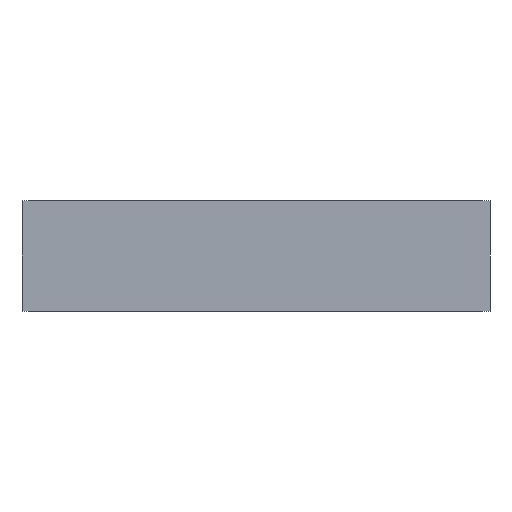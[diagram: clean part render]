
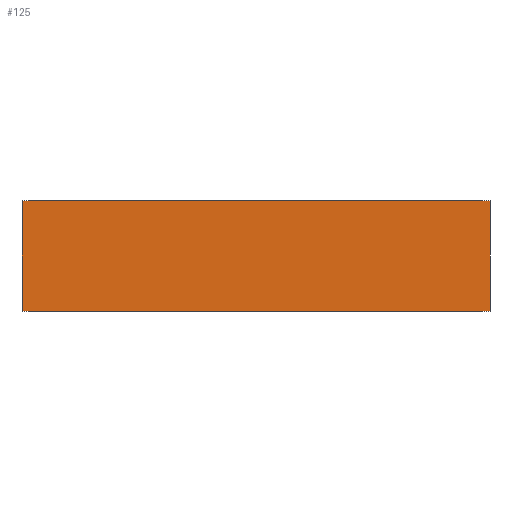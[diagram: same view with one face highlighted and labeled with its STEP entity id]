
A CAD part, front view. The second image highlights one B-rep face of the part: STEP entity #125.
In plain terms, the highlighted planar face has unit normal (0, -1, 0).
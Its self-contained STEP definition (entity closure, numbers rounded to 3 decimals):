
#4 = EDGE_CURVE ( 'NONE', #173, #172, #773, .T. ) ;
#36 = EDGE_CURVE ( 'NONE', #216, #173, #817, .T. ) ;
#59 = AXIS2_PLACEMENT_3D ( 'NONE', #382, #520, #519 ) ;
#83 = EDGE_CURVE ( 'NONE', #219, #172, #878, .T. ) ;
#101 = EDGE_CURVE ( 'NONE', #216, #219, #898, .T. ) ;
#125 = ADVANCED_FACE ( 'NONE', ( #934 ), #388, .F. ) ;
#172 = VERTEX_POINT ( 'NONE', #417 ) ;
#173 = VERTEX_POINT ( 'NONE', #416 ) ;
#190 = DIRECTION ( 'NONE',  ( 0., 0., -1. ) ) ;
#216 = VERTEX_POINT ( 'NONE', #392 ) ;
#219 = VERTEX_POINT ( 'NONE', #394 ) ;
#231 = CARTESIAN_POINT ( 'NONE',  ( 254., 0., 120. ) ) ;
#248 = DIRECTION ( 'NONE',  ( 0., 0., -1. ) ) ;
#249 = CARTESIAN_POINT ( 'NONE',  ( -254., 0., 120. ) ) ;
#268 = DIRECTION ( 'NONE',  ( 1., 0., 0. ) ) ;
#269 = CARTESIAN_POINT ( 'NONE',  ( -254., 0., 0. ) ) ;
#332 = DIRECTION ( 'NONE',  ( 1., 0., 0. ) ) ;
#333 = CARTESIAN_POINT ( 'NONE',  ( -254., 0., 120. ) ) ;
#382 = CARTESIAN_POINT ( 'NONE',  ( -254., 0., 120. ) ) ;
#388 = PLANE ( 'NONE',  #59 ) ;
#392 = CARTESIAN_POINT ( 'NONE',  ( -254., 0., 120. ) ) ;
#394 = CARTESIAN_POINT ( 'NONE',  ( -254., 0., 0. ) ) ;
#416 = CARTESIAN_POINT ( 'NONE',  ( 254., 0., 120. ) ) ;
#417 = CARTESIAN_POINT ( 'NONE',  ( 254., 0., 0. ) ) ;
#519 = DIRECTION ( 'NONE',  ( -1., 0., 0. ) ) ;
#520 = DIRECTION ( 'NONE',  ( 0., 1., 0. ) ) ;
#620 = ORIENTED_EDGE ( 'NONE', *, *, #83, .T. ) ;
#621 = ORIENTED_EDGE ( 'NONE', *, *, #36, .F. ) ;
#622 = ORIENTED_EDGE ( 'NONE', *, *, #101, .T. ) ;
#677 = ORIENTED_EDGE ( 'NONE', *, *, #4, .F. ) ;
#742 = EDGE_LOOP ( 'NONE', ( #620, #677, #621, #622 ) ) ;
#773 = LINE ( 'NONE', #231, #778 ) ;
#778 = VECTOR ( 'NONE', #190, 1000. ) ;
#817 = LINE ( 'NONE', #333, #818 ) ;
#818 = VECTOR ( 'NONE', #332, 1000. ) ;
#878 = LINE ( 'NONE', #269, #879 ) ;
#879 = VECTOR ( 'NONE', #268, 1000. ) ;
#898 = LINE ( 'NONE', #249, #899 ) ;
#899 = VECTOR ( 'NONE', #248, 1000. ) ;
#934 = FACE_OUTER_BOUND ( 'NONE', #742, .T. ) ;
